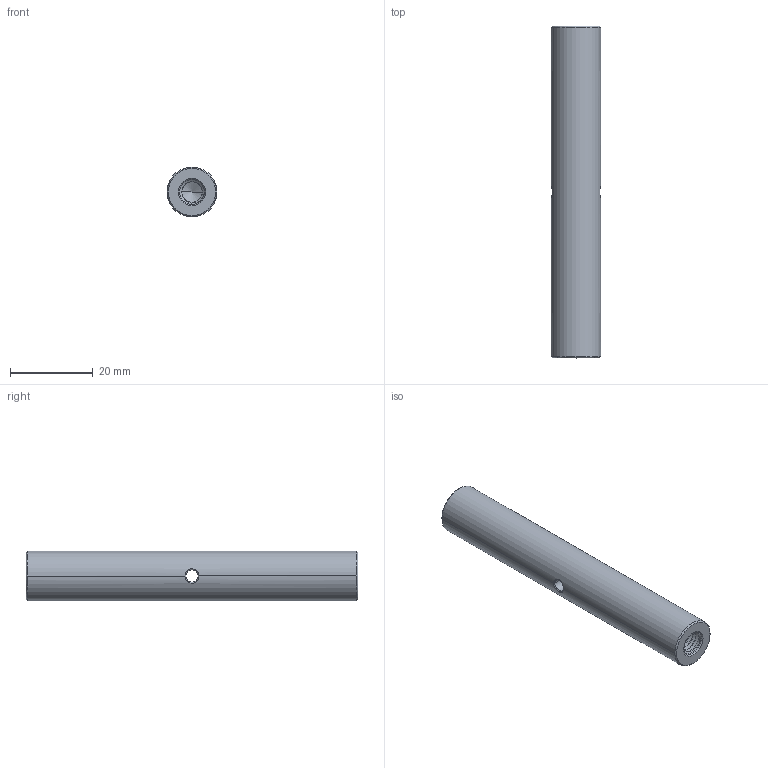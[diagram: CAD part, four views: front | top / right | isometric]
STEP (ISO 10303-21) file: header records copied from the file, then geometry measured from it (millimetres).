
FILE_DESCRIPTION((''),'2;1');
FILE_NAME('PCA8-S1','2020-12-11T',('Administrator'),(''),'CREO PARAMETRIC BY PTC INC, 2015290','CREO PARAMETRIC BY PTC INC, 2015290','');
FILE_SCHEMA(('CONFIG_CONTROL_DESIGN'));
Length unit declared in the file: millimetre
Products named in the file (1): PCA8-S1
Bounding box: 12 x 80 x 12 mm (x, y, z)
Volume: 8653.7 mm3; surface area: 3670.5 mm2
Topology: 1 solids, 1 shells, 76 faces, 203 edges, 125 vertices
Faces by surface type: cylinder 39, bspline 22, cone 12, plane 3
Entity records: 5461 total; most frequent: CARTESIAN_POINT 3816, ORIENTED_EDGE 398, DIRECTION 222, EDGE_CURVE 199, VERTEX_POINT 125, B_SPLINE_CURVE_WITH_KNOTS 105, EDGE_LOOP 78, FACE_OUTER_BOUND 76
